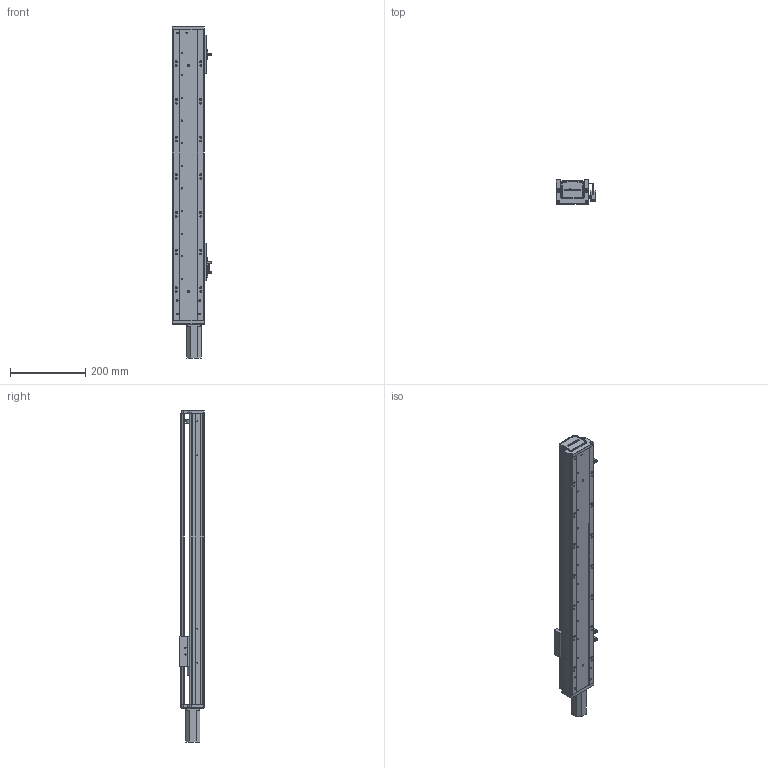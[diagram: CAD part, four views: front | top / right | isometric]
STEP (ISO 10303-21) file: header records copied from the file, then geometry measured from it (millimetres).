
FILE_DESCRIPTION (( 'STEP AP203' ), '1' );
FILE_NAME ('RY80-L1620-300-MK(100W).SLDASM_550.step', '2021-02-20T02:19:47', ( '' ), ( '' ), 'SwSTEP 2.0', 'SolidWorks 2012', '' );
FILE_SCHEMA (( 'CONFIG_CONTROL_DESIGN' ));
Products named in the file (12): RY80-L1620-300-MK(100W).SLDASM_550; 侂狟100W; 滅袉蝶18-24; 覜茼ん672; 672嫖萇羲壽假蚾釱; RY80俋离覜茼え; RY80前盖板(100W电机)M3; 滅袉蝶18-10; RY80-300-MK倰第奻裔啣_550; RY80綴裔啣; RY80臏賑輸; RY80-300-MK倰第菁釱_550
Assembly tree (14 placements, depth 2):
  RY80-L1620-300-MK(100W).SLDASM_550
    RY80-300-MK倰第菁釱_550
    RY80臏賑輸
    RY80-300-MK倰第奻裔啣_550
    RY80前盖板(100W电机)M3
    RY80綴裔啣
    滅袉蝶18-10
    672嫖萇羲壽假蚾釱  x2
    覜茼ん672  x3
    RY80俋离覜茼え
    滅袉蝶18-24
    侂狟100W
Bounding box: 103.7 x 65 x 881 mm (x, y, z)
Volume: 1321999.6 mm3; surface area: 550743.9 mm2
Topology: 14 solids, 14 shells, 1591 faces, 4461 edges, 2913 vertices
Faces by surface type: plane 908, cylinder 576, cone 73, bspline 34
Entity records: 49976 total; most frequent: CARTESIAN_POINT 13301, ORIENTED_EDGE 7690, DIRECTION 6852, EDGE_CURVE 3845, VERTEX_POINT 2529, LINE 2364, VECTOR 2364, AXIS2_PLACEMENT_3D 2244
